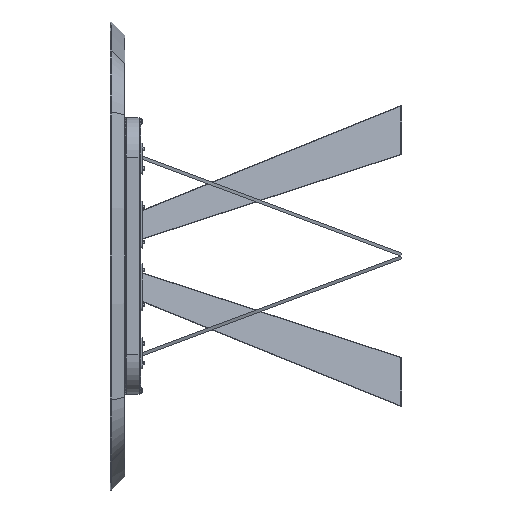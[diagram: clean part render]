
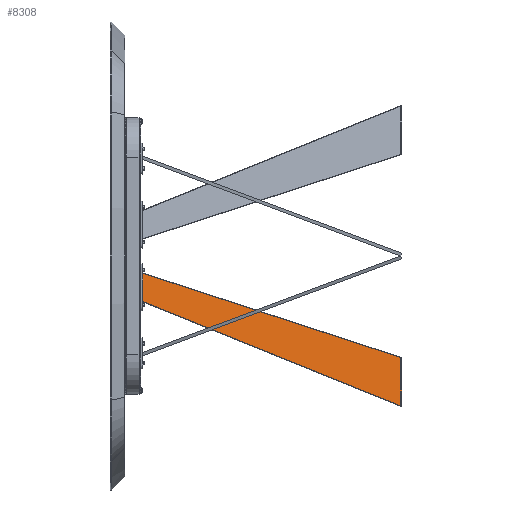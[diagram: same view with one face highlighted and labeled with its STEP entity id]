
A CAD part, left-side view. The second image highlights one B-rep face of the part: STEP entity #8308.
In plain terms, the highlighted planar face has unit normal (-0.937, -0.35, 0) as drawn and (-1, 0, 0) by its records, which use the part's own axes.
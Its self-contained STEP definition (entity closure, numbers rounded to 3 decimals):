
#2562 = DIRECTION ( 'NONE',  ( 0., 0., -1. ) ) ;
#3090 = CARTESIAN_POINT ( 'NONE',  ( -4., 794., 0. ) ) ;
#3103 = EDGE_CURVE ( 'NONE', #18445, #13498, #5572, .T. ) ;
#3305 = CARTESIAN_POINT ( 'NONE',  ( -4., 0., 0. ) ) ;
#4364 = DIRECTION ( 'NONE',  ( 1., 0., 0. ) ) ;
#4803 = ORIENTED_EDGE ( 'NONE', *, *, #13703, .F. ) ;
#4831 = CARTESIAN_POINT ( 'NONE',  ( -4., 794., 0. ) ) ;
#5572 = LINE ( 'NONE', #3305, #17179 ) ;
#5696 = LINE ( 'NONE', #16344, #9083 ) ;
#6695 = LINE ( 'NONE', #10617, #23258 ) ;
#7195 = CARTESIAN_POINT ( 'NONE',  ( -4., 73.118, 69.801 ) ) ;
#7806 = CARTESIAN_POINT ( 'NONE',  ( -4., 0., 0. ) ) ;
#7913 = VECTOR ( 'NONE', #15603, 1000. ) ;
#8308 = ADVANCED_FACE ( 'NONE', ( #13375 ), #9364, .F. ) ;
#8462 = EDGE_CURVE ( 'NONE', #13498, #13201, #13492, .T. ) ;
#9083 = VECTOR ( 'NONE', #16226, 1000. ) ;
#9364 = PLANE ( 'NONE',  #17714 ) ;
#9972 = VERTEX_POINT ( 'NONE', #7195 ) ;
#10272 = DIRECTION ( 'NONE',  ( 0., 0.292, 0.956 ) ) ;
#10617 = CARTESIAN_POINT ( 'NONE',  ( -4., 47.351, -14.477 ) ) ;
#13201 = VERTEX_POINT ( 'NONE', #16373 ) ;
#13375 = FACE_OUTER_BOUND ( 'NONE', #18644, .T. ) ;
#13492 = LINE ( 'NONE', #4831, #7913 ) ;
#13498 = VERTEX_POINT ( 'NONE', #3090 ) ;
#13703 = EDGE_CURVE ( 'NONE', #13201, #9972, #5696, .T. ) ;
#15084 = ORIENTED_EDGE ( 'NONE', *, *, #20128, .T. ) ;
#15311 = ORIENTED_EDGE ( 'NONE', *, *, #8462, .F. ) ;
#15603 = DIRECTION ( 'NONE',  ( 0., 0.292, 0.956 ) ) ;
#16226 = DIRECTION ( 'NONE',  ( 0., -0.998, -0.066 ) ) ;
#16344 = CARTESIAN_POINT ( 'NONE',  ( -4., 830.546, 119.538 ) ) ;
#16373 = CARTESIAN_POINT ( 'NONE',  ( -4., 830.546, 119.538 ) ) ;
#17179 = VECTOR ( 'NONE', #17780, 1000. ) ;
#17714 = AXIS2_PLACEMENT_3D ( 'NONE', #7806, #4364, #2562 ) ;
#17780 = DIRECTION ( 'NONE',  ( 0., 1., 0. ) ) ;
#18044 = CARTESIAN_POINT ( 'NONE',  ( -4., 51.777, 0. ) ) ;
#18247 = ORIENTED_EDGE ( 'NONE', *, *, #3103, .F. ) ;
#18445 = VERTEX_POINT ( 'NONE', #18044 ) ;
#18644 = EDGE_LOOP ( 'NONE', ( #18247, #15084, #4803, #15311 ) ) ;
#20128 = EDGE_CURVE ( 'NONE', #18445, #9972, #6695, .T. ) ;
#23258 = VECTOR ( 'NONE', #10272, 1000. ) ;
